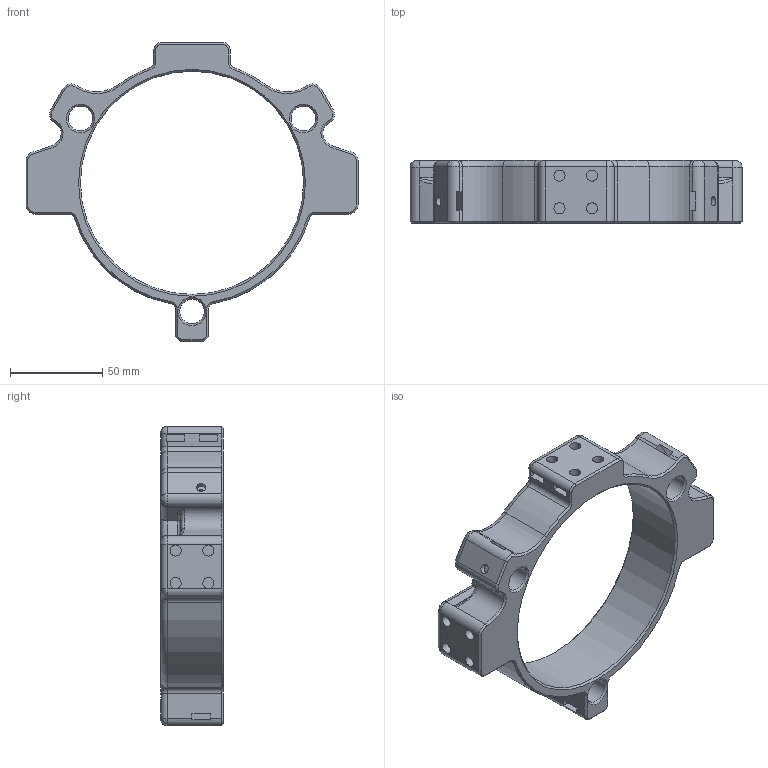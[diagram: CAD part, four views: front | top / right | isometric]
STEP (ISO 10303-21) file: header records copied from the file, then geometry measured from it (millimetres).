
FILE_DESCRIPTION(/* description */ (''),/* implementation_level */ '2;1');
FILE_NAME(/* name */ 'hadley_TripodMountInterface_v6.step',/* time_stamp */ '2023-03-04T10:51:07-08:00',/* author */ (''),/* organization */ (''),/* preprocessor_version */ 'ST-DEVELOPER v19.2',/* originating_system */ 'Autodesk Translation Framework v11.17.0.187',/* authorisation */ '');
FILE_SCHEMA (('AUTOMOTIVE_DESIGN { 1 0 10303 214 3 1 1 }'));
Length unit declared in the file: millimetre
Products named in the file (1): hadley_TripodMountInterface
Bounding box: 180 x 34 x 162.19 mm (x, y, z)
Volume: 173493 mm3; surface area: 55683.7 mm2
Topology: 1 solids, 1 shells, 259 faces, 629 edges, 385 vertices
Faces by surface type: plane 104, cylinder 82, cone 29, bspline 28, torus 16
Full cylindrical faces by diameter (mm): 5 x6, 6 x24, 13.4 x3, 121 x1
Entity records: 9077 total; most frequent: CARTESIAN_POINT 2930, DIRECTION 1270, ORIENTED_EDGE 1258, EDGE_CURVE 629, AXIS2_PLACEMENT_3D 465, VERTEX_POINT 385, LINE 340, VECTOR 340
